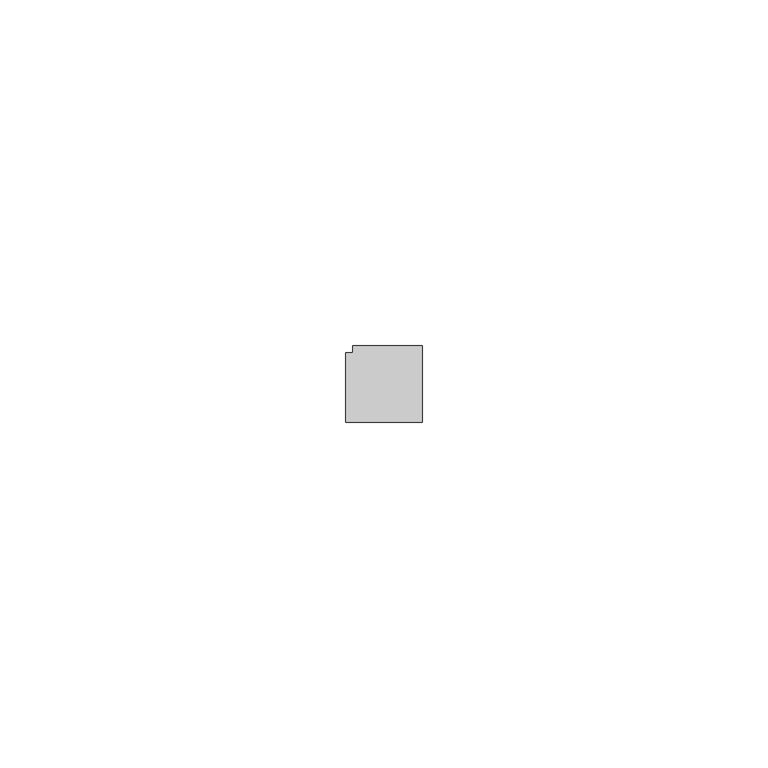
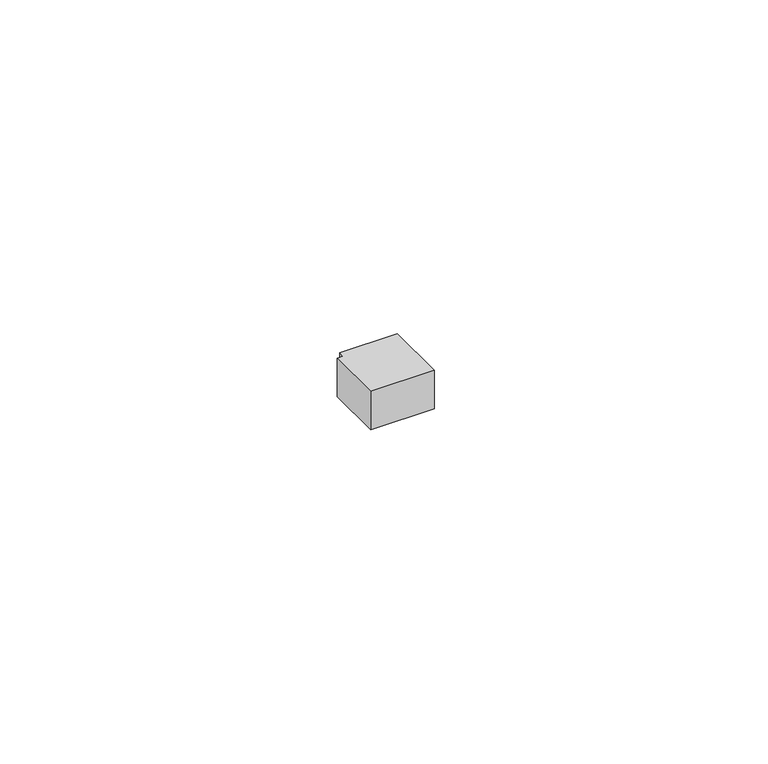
"""IFC4 building model written with IfcOpenShell, lengths in millimetres: duct fitting geometry, Углы_без аксессуаров для кабель-каналов : Стандартное."""

from ifc_helpers import new_model, si_unit, frame, origin, place, context, project, spatial, polyline, outline, extrude, source, transform, mapped, element, save


def duct_fitting_fa248a7e(model_context):
    return source(origin(), model_context, "Body", "SweptSolid", [
        extrude(outline(polyline([(-6.0, -5.0), (-6.0, 5.0), (-5.0, 5.0), (-5.0, 6.0), (5.0, 6.0), (5.0, -5.0), (-6.0, -5.0)])), frame((0.0, 0.0, -3.5), z_axis=(0.0, 0.0, 1.0), x_axis=(1.0, 0.0, 0.0)), (0.0, 0.0, 1.0), 7.0),
    ])


if __name__ == "__main__":
    model = new_model("IFC4")
    model_context = context("Model", 3, world=origin())
    ifc_project = project(units=[si_unit("LENGTHUNIT", "METRE", prefix="MILLI")], contexts=[model_context])
    site = spatial("IfcSite", under=ifc_project)
    building = spatial("IfcBuilding", under=site)
    placement = place(None, origin())
    duct_fitting_shape = duct_fitting_fa248a7e(model_context)
    element("IfcDuctFitting", 1, ObjectType="Углы_без аксессуаров для кабель-каналов : Стандартное", at=placement, inside=building, context=model_context, shape_type="MappedRepresentation", body=[
        mapped(duct_fitting_shape, transform((0.0, 0.0, 0.0), x_axis=(1.0, 0.0, 0.0), y_axis=(0.0, 1.0, 0.0), z_axis=(0.0, 0.0, 1.0))),
    ])
    save(model, "model.ifc")
